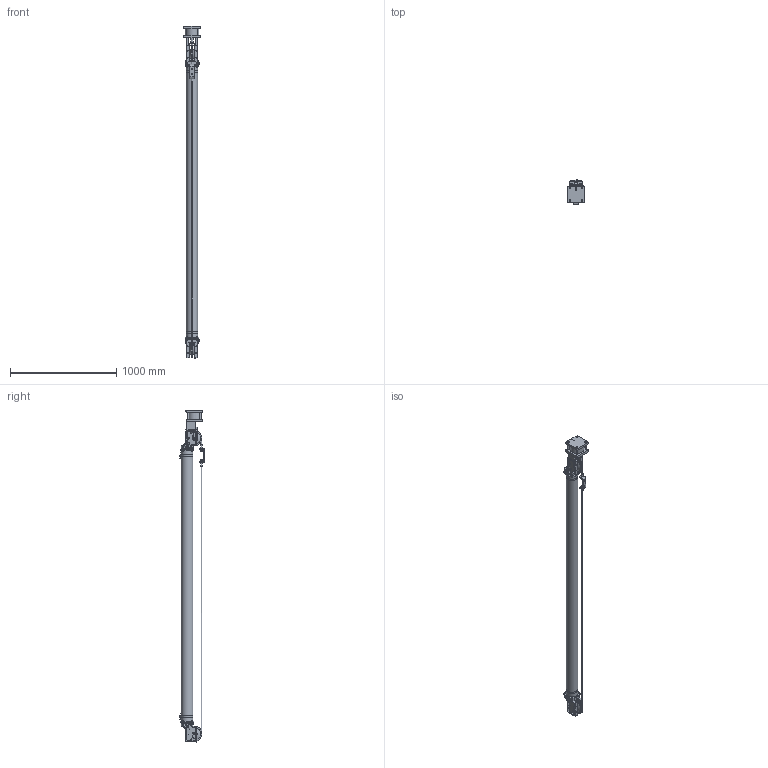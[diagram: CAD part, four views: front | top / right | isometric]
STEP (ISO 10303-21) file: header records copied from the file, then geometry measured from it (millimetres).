
FILE_DESCRIPTION (( 'STEP AP203' ), '1' );
FILE_NAME ('CCM40_SK96.500_CC-485024-1.step', '2025-03-31T14:27:13', ( '' ), ( '' ), 'SwSTEP 2.0', 'SolidWorks 2024', '' );
FILE_SCHEMA (( 'CONFIG_CONTROL_DESIGN' ));
Length unit declared in the file: inch
Products named in the file (2): CCM40_SK96.500_CC-485024-1; Base_CCM40_SK96.500_CC-485024-1
Assembly tree (1 placements, depth 2):
  CCM40_SK96.500_CC-485024-1
    Base_CCM40_SK96.500_CC-485024-1
Bounding box: 152.4 x 242.13 x 3118.1 mm (x, y, z)
Volume: 28523661.4 mm3; surface area: 1594084.7 mm2
Topology: 1 solids, 20 shells, 1628 faces, 3944 edges, 2470 vertices
Faces by surface type: plane 760, cylinder 456, cone 163, bspline 160, sphere 52, torus 37
Full cylindrical faces by diameter (mm): 1.194 x8, 3.82 x4, 6.007 x4, 7.811 x2, 7.925 x4, 7.938 x12, 8.382 x1, 8.433 x6, 8.474 x4, 8.712 x20, 8.719 x1, 8.731 x1, 9.525 x4, 10.084 x4, 10.185 x2, 10.696 x1, 11.1 x2, 11.506 x1, 11.684 x2, 11.908 x12, 14.287 x2, 14.288 x2, 14.453 x1, 14.935 x2, 15.494 x4, 15.748 x1, 15.875 x5, 15.926 x12, 16.256 x1, 16.662 x1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
Entity records: 52968 total; most frequent: CARTESIAN_POINT 17820, ORIENTED_EDGE 7080, DIRECTION 6864, EDGE_CURVE 3540, AXIS2_PLACEMENT_3D 2500, VERTEX_POINT 2346, EDGE_LOOP 2146, LINE 1864
